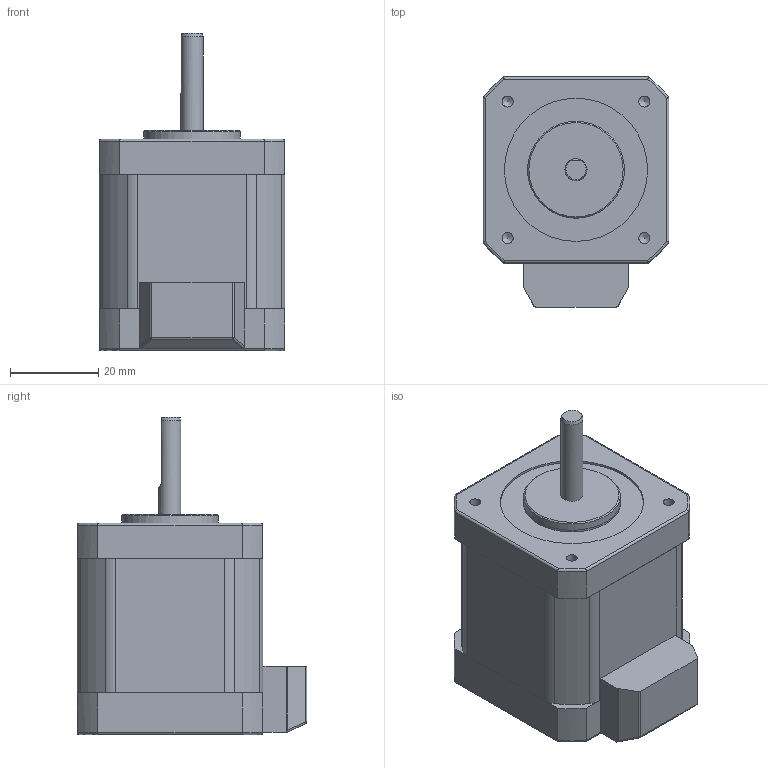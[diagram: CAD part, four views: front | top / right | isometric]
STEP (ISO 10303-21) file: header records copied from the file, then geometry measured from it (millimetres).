
FILE_DESCRIPTION( ('This file contains a STEP AP42 implementation' ,'as created by ZW3D STEP Interface translator.') ,'2;1' );
FILE_NAME( 'AM510A-42A0060-0000.stp' ,'24 719.185515', (''), ('ZWCAD Software Co.'), 'Version 1.0', 'ZW3D to STEP translator', '' );
FILE_SCHEMA(('AUTOMOTIVE_DESIGN { 1 0 10303 214 1 1 1 1 }'));
Length unit declared in the file: millimetre
Products named in the file (2): 0; AM510A-42A0025-0000
Bounding box: 42.2 x 52.2 x 72 mm (x, y, z)
Volume: 85928.1 mm3; surface area: 20579.8 mm2
Topology: 6 solids, 6 shells, 99 faces, 264 edges, 227 vertices
Faces by surface type: cylinder 44, plane 34, bspline 13, cone 6, sphere 2
Full cylindrical faces by diameter (mm): 2.5 x8, 5 x1, 22 x2, 32.5 x1
Entity records: 3555 total; most frequent: CARTESIAN_POINT 1062, DIRECTION 488, ORIENTED_EDGE 440, EDGE_CURVE 220, AXIS2_PLACEMENT_3D 180, VERTEX_POINT 139, VECTOR 128, LINE 128
